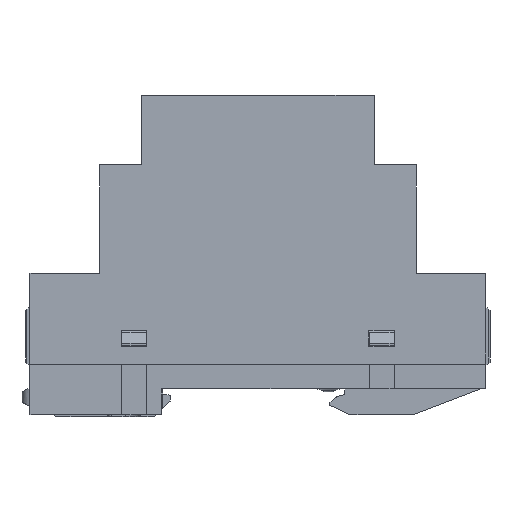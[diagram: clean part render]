
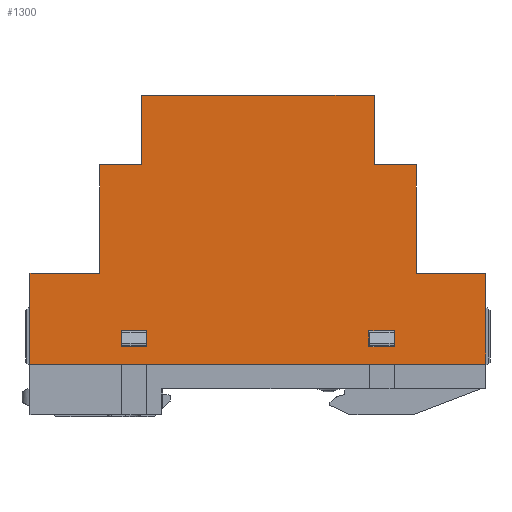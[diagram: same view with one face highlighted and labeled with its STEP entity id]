
A CAD part, left-side view. The second image highlights one B-rep face of the part: STEP entity #1300.
In plain terms, the highlighted planar face has unit normal (-1, 0, 0).
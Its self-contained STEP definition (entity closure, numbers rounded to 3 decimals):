
#1300=ADVANCED_FACE('',(#9784,#9786,#9788),#9790,.F.);
#9784=FACE_BOUND('',#9785,.T.);
#9785=EDGE_LOOP('',(#16576,#16577,#16578,#16579,#16580,#16581,#16582,#16583,#16584,
#16585,#16586,#16587));
#9786=FACE_BOUND('',#9787,.T.);
#9787=EDGE_LOOP('',(#16588,#16589,#16590,#16591));
#9788=FACE_BOUND('',#9789,.T.);
#9789=EDGE_LOOP('',(#16592,#16593,#16594,#16595));
#9790=PLANE('',#9791);
#9791=AXIS2_PLACEMENT_3D('',#9792,#9793,#9794);
#9792=CARTESIAN_POINT('',(-26.5,0.,0.));
#9793=DIRECTION('',(1.,0.,0.));
#9794=DIRECTION('',(0.,1.,0.));
#16576=ORIENTED_EDGE('',*,*,#21554,.T.);
#16577=ORIENTED_EDGE('',*,*,#21426,.F.);
#16578=ORIENTED_EDGE('',*,*,#21444,.F.);
#16579=ORIENTED_EDGE('',*,*,#21443,.F.);
#16580=ORIENTED_EDGE('',*,*,#21441,.F.);
#16581=ORIENTED_EDGE('',*,*,#21439,.F.);
#16582=ORIENTED_EDGE('',*,*,#21432,.T.);
#16583=ORIENTED_EDGE('',*,*,#21469,.F.);
#16584=ORIENTED_EDGE('',*,*,#21468,.F.);
#16585=ORIENTED_EDGE('',*,*,#21466,.F.);
#16586=ORIENTED_EDGE('',*,*,#21455,.F.);
#16587=ORIENTED_EDGE('',*,*,#21421,.F.);
#16588=ORIENTED_EDGE('',*,*,#21558,.T.);
#16589=ORIENTED_EDGE('',*,*,#21559,.T.);
#16590=ORIENTED_EDGE('',*,*,#21560,.T.);
#16591=ORIENTED_EDGE('',*,*,#21561,.T.);
#16592=ORIENTED_EDGE('',*,*,#21562,.T.);
#16593=ORIENTED_EDGE('',*,*,#21563,.T.);
#16594=ORIENTED_EDGE('',*,*,#21564,.T.);
#16595=ORIENTED_EDGE('',*,*,#21565,.T.);
#21421=EDGE_CURVE('',#24179,#24181,#24182,.T.);
#21426=EDGE_CURVE('',#24188,#24190,#24191,.T.);
#21432=EDGE_CURVE('',#24200,#24198,#24201,.T.);
#21439=EDGE_CURVE('',#24200,#24211,#24213,.T.);
#21441=EDGE_CURVE('',#24211,#24214,#24216,.T.);
#21443=EDGE_CURVE('',#24214,#24217,#24219,.T.);
#21444=EDGE_CURVE('',#24217,#24188,#24220,.T.);
#21455=EDGE_CURVE('',#24181,#24239,#24241,.T.);
#21466=EDGE_CURVE('',#24239,#24260,#24262,.T.);
#21468=EDGE_CURVE('',#24260,#24263,#24265,.T.);
#21469=EDGE_CURVE('',#24263,#24198,#24266,.T.);
#21554=EDGE_CURVE('',#24179,#24190,#24404,.T.);
#21558=EDGE_CURVE('',#24409,#24410,#24411,.T.);
#21559=EDGE_CURVE('',#24410,#24412,#24413,.T.);
#21560=EDGE_CURVE('',#24412,#24414,#24415,.T.);
#21561=EDGE_CURVE('',#24414,#24409,#24416,.T.);
#21562=EDGE_CURVE('',#24417,#24418,#24419,.T.);
#21563=EDGE_CURVE('',#24418,#24420,#24421,.T.);
#21564=EDGE_CURVE('',#24420,#24422,#24423,.T.);
#21565=EDGE_CURVE('',#24422,#24417,#24424,.T.);
#24179=VERTEX_POINT('',#28922);
#24181=VERTEX_POINT('',#28926);
#24182=LINE('',#28927,#28928);
#24188=VERTEX_POINT('',#28941);
#24190=VERTEX_POINT('',#28945);
#24191=LINE('',#28946,#28947);
#24198=VERTEX_POINT('',#28963);
#24200=VERTEX_POINT('',#28967);
#24201=LINE('',#28968,#28969);
#24211=VERTEX_POINT('',#28990);
#24213=LINE('',#28994,#28995);
#24214=VERTEX_POINT('',#28997);
#24216=LINE('',#29001,#29002);
#24217=VERTEX_POINT('',#29004);
#24219=LINE('',#29008,#29009);
#24220=LINE('',#29011,#29012);
#24239=VERTEX_POINT('',#29059);
#24241=LINE('',#29063,#29064);
#24260=VERTEX_POINT('',#29111);
#24262=LINE('',#29115,#29116);
#24263=VERTEX_POINT('',#29118);
#24265=LINE('',#29122,#29123);
#24266=LINE('',#29125,#29126);
#24404=LINE('',#29433,#29434);
#24409=VERTEX_POINT('',#29446);
#24410=VERTEX_POINT('',#29447);
#24411=LINE('',#29448,#29449);
#24412=VERTEX_POINT('',#29451);
#24413=LINE('',#29452,#29453);
#24414=VERTEX_POINT('',#29455);
#24415=LINE('',#29456,#29457);
#24416=LINE('',#29459,#29460);
#24417=VERTEX_POINT('',#29462);
#24418=VERTEX_POINT('',#29463);
#24419=LINE('',#29464,#29465);
#24420=VERTEX_POINT('',#29467);
#24421=LINE('',#29468,#29469);
#24422=VERTEX_POINT('',#29471);
#24423=LINE('',#29472,#29473);
#24424=LINE('',#29475,#29476);
#28922=CARTESIAN_POINT('',(-26.5,44.175,0.));
#28926=CARTESIAN_POINT('',(-26.5,44.175,17.6));
#28927=CARTESIAN_POINT('',(-26.5,44.175,0.));
#28928=VECTOR('',#28929,1.);
#28929=DIRECTION('',(0.,0.,1.));
#28941=CARTESIAN_POINT('',(-26.5,-44.175,17.6));
#28945=CARTESIAN_POINT('',(-26.5,-44.175,0.));
#28946=CARTESIAN_POINT('',(-26.5,-44.175,17.6));
#28947=VECTOR('',#28948,1.);
#28948=DIRECTION('',(0.,0.,-1.));
#28963=CARTESIAN_POINT('',(-26.5,22.5,52.1));
#28967=CARTESIAN_POINT('',(-26.5,-22.5,52.1));
#28968=CARTESIAN_POINT('',(-26.5,-22.5,52.1));
#28969=VECTOR('',#28970,1.);
#28970=DIRECTION('',(0.,1.,0.));
#28990=CARTESIAN_POINT('',(-26.5,-22.5,38.6));
#28994=CARTESIAN_POINT('',(-26.5,-22.5,52.1));
#28995=VECTOR('',#28996,1.);
#28996=DIRECTION('',(0.,0.,-1.));
#28997=CARTESIAN_POINT('',(-26.5,-30.7,38.6));
#29001=CARTESIAN_POINT('',(-26.5,-22.5,38.6));
#29002=VECTOR('',#29003,1.);
#29003=DIRECTION('',(0.,-1.,0.));
#29004=CARTESIAN_POINT('',(-26.5,-30.7,17.6));
#29008=CARTESIAN_POINT('',(-26.5,-30.7,38.6));
#29009=VECTOR('',#29010,1.);
#29010=DIRECTION('',(0.,0.,-1.));
#29011=CARTESIAN_POINT('',(-26.5,-30.7,17.6));
#29012=VECTOR('',#29013,1.);
#29013=DIRECTION('',(0.,-1.,0.));
#29059=CARTESIAN_POINT('',(-26.5,30.7,17.6));
#29063=CARTESIAN_POINT('',(-26.5,44.175,17.6));
#29064=VECTOR('',#29065,1.);
#29065=DIRECTION('',(0.,-1.,0.));
#29111=CARTESIAN_POINT('',(-26.5,30.7,38.6));
#29115=CARTESIAN_POINT('',(-26.5,30.7,17.6));
#29116=VECTOR('',#29117,1.);
#29117=DIRECTION('',(0.,0.,1.));
#29118=CARTESIAN_POINT('',(-26.5,22.5,38.6));
#29122=CARTESIAN_POINT('',(-26.5,30.7,38.6));
#29123=VECTOR('',#29124,1.);
#29124=DIRECTION('',(0.,-1.,0.));
#29125=CARTESIAN_POINT('',(-26.5,22.5,38.6));
#29126=VECTOR('',#29127,1.);
#29127=DIRECTION('',(0.,0.,1.));
#29433=CARTESIAN_POINT('',(-26.5,44.175,0.));
#29434=VECTOR('',#29435,1.);
#29435=DIRECTION('',(0.,-1.,0.));
#29446=CARTESIAN_POINT('',(-26.5,-21.5,6.5));
#29447=CARTESIAN_POINT('',(-26.5,-26.5,6.5));
#29448=CARTESIAN_POINT('',(-26.5,-21.5,6.5));
#29449=VECTOR('',#29450,1.);
#29450=DIRECTION('',(0.,-1.,0.));
#29451=CARTESIAN_POINT('',(-26.5,-26.5,3.4));
#29452=CARTESIAN_POINT('',(-26.5,-26.5,6.5));
#29453=VECTOR('',#29454,1.);
#29454=DIRECTION('',(0.,0.,-1.));
#29455=CARTESIAN_POINT('',(-26.5,-21.5,3.4));
#29456=CARTESIAN_POINT('',(-26.5,-26.5,3.4));
#29457=VECTOR('',#29458,1.);
#29458=DIRECTION('',(0.,1.,0.));
#29459=CARTESIAN_POINT('',(-26.5,-21.5,3.4));
#29460=VECTOR('',#29461,1.);
#29461=DIRECTION('',(0.,0.,1.));
#29462=CARTESIAN_POINT('',(-26.5,26.5,6.5));
#29463=CARTESIAN_POINT('',(-26.5,21.5,6.5));
#29464=CARTESIAN_POINT('',(-26.5,26.5,6.5));
#29465=VECTOR('',#29466,1.);
#29466=DIRECTION('',(0.,-1.,0.));
#29467=CARTESIAN_POINT('',(-26.5,21.5,3.4));
#29468=CARTESIAN_POINT('',(-26.5,21.5,6.5));
#29469=VECTOR('',#29470,1.);
#29470=DIRECTION('',(0.,0.,-1.));
#29471=CARTESIAN_POINT('',(-26.5,26.5,3.4));
#29472=CARTESIAN_POINT('',(-26.5,21.5,3.4));
#29473=VECTOR('',#29474,1.);
#29474=DIRECTION('',(0.,1.,0.));
#29475=CARTESIAN_POINT('',(-26.5,26.5,3.4));
#29476=VECTOR('',#29477,1.);
#29477=DIRECTION('',(0.,0.,1.));
